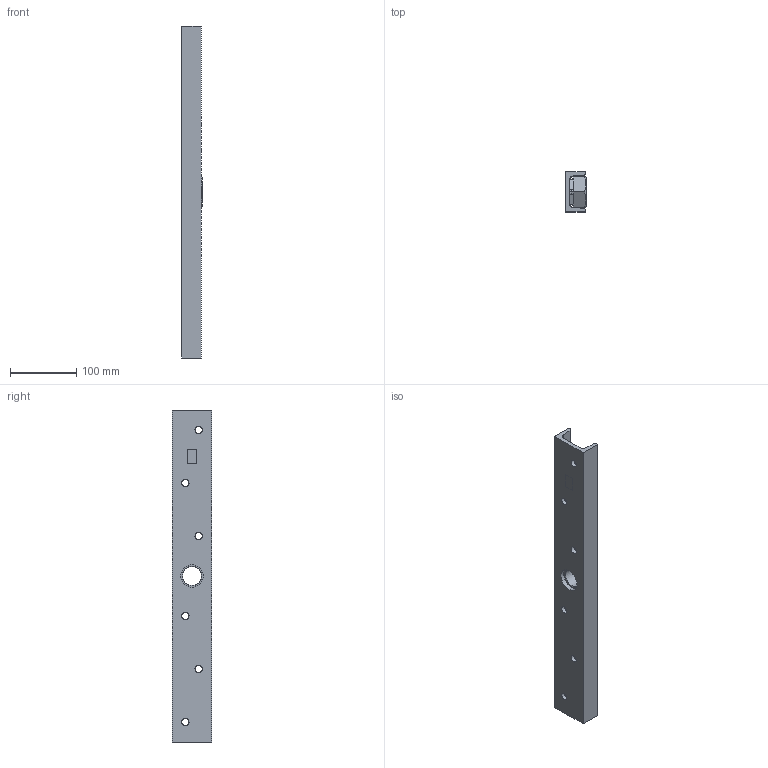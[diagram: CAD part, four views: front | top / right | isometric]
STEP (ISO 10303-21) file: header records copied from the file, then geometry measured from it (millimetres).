
FILE_DESCRIPTION(/* description */ ('Traegerplatte Nr.5'),/* implementation_level */ '2;1');
FILE_NAME(/* name */ 'Q:\sge-ma\Produktmanagement-STB\STB\Workspace\stp\010336660.stp',/* time_stamp */ '2016-07-19T08:49:38+02:00',/* author */ ('avschreier'),/* organization */ (''),/* preprocessor_version */ 'ST-DEVELOPER v16.1',/* originating_system */ 'Autodesk Inventor 2016',/* authorisation */ '');
FILE_SCHEMA (('AUTOMOTIVE_DESIGN { 1 0 10303 214 3 1 1 }'));
Length unit declared in the file: millimetre
Products named in the file (4): 010336660_Schweißnähte; 337000194; 337000222; 010336660
Assembly tree (3 placements, depth 2):
  010336660
    010336660_Schweißnähte
    337000194
    337000222
Bounding box: 31.6 x 60 x 500 mm (x, y, z)
Volume: 344883.5 mm3; surface area: 119092.1 mm2
Topology: 4 solids, 4 shells, 62 faces, 162 edges, 109 vertices
Faces by surface type: plane 39, cylinder 12, cone 7, bspline 4
Full cylindrical faces by diameter (mm): 11 x6, 27.835 x1, 34 x1
Entity records: 1995 total; most frequent: CARTESIAN_POINT 473, ORIENTED_EDGE 286, DIRECTION 282, EDGE_CURVE 143, VERTEX_POINT 101, AXIS2_PLACEMENT_3D 100, EDGE_LOOP 90, LINE 82
